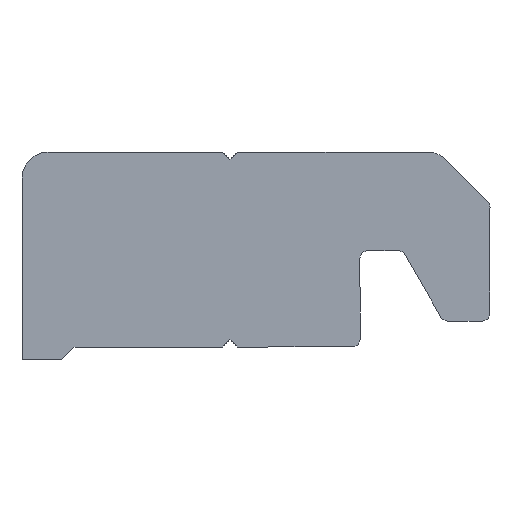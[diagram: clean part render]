
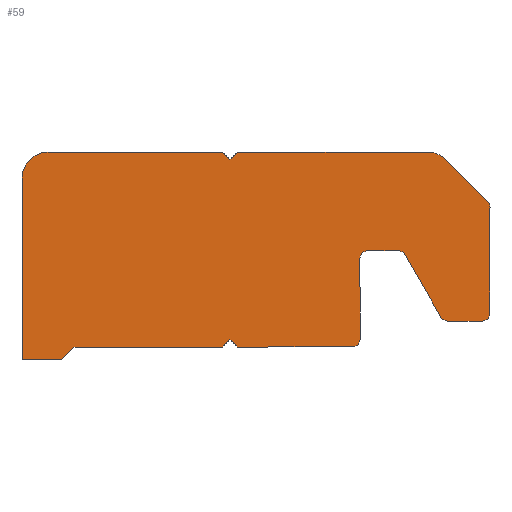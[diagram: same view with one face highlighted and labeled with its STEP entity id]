
A CAD part, front view. The second image highlights one B-rep face of the part: STEP entity #59.
In plain terms, the highlighted planar face has unit normal (0, -1, 0).
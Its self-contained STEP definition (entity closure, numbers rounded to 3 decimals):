
#59=ADVANCED_FACE('',(#143),#144,.F.);
#143=FACE_OUTER_BOUND('',#250,.T.);
#144=PLANE('',#251);
#250=EDGE_LOOP('',(#356,#357,#358,#359,#360,#361,#362,#363,#364,#365,#366,#367,#368,#369,#370,#371,#372,#373,#374,#375,#376,#377,#378,#379,#380,#381));
#251=AXIS2_PLACEMENT_3D('',#382,#383,#384);
#356=ORIENTED_EDGE('',*,*,#677,.T.);
#357=ORIENTED_EDGE('',*,*,#678,.T.);
#358=ORIENTED_EDGE('',*,*,#679,.T.);
#359=ORIENTED_EDGE('',*,*,#680,.T.);
#360=ORIENTED_EDGE('',*,*,#681,.T.);
#361=ORIENTED_EDGE('',*,*,#682,.T.);
#362=ORIENTED_EDGE('',*,*,#683,.T.);
#363=ORIENTED_EDGE('',*,*,#684,.T.);
#364=ORIENTED_EDGE('',*,*,#672,.T.);
#365=ORIENTED_EDGE('',*,*,#685,.T.);
#366=ORIENTED_EDGE('',*,*,#686,.T.);
#367=ORIENTED_EDGE('',*,*,#687,.T.);
#368=ORIENTED_EDGE('',*,*,#688,.T.);
#369=ORIENTED_EDGE('',*,*,#689,.T.);
#370=ORIENTED_EDGE('',*,*,#690,.T.);
#371=ORIENTED_EDGE('',*,*,#691,.T.);
#372=ORIENTED_EDGE('',*,*,#692,.T.);
#373=ORIENTED_EDGE('',*,*,#693,.T.);
#374=ORIENTED_EDGE('',*,*,#694,.T.);
#375=ORIENTED_EDGE('',*,*,#695,.T.);
#376=ORIENTED_EDGE('',*,*,#696,.T.);
#377=ORIENTED_EDGE('',*,*,#697,.T.);
#378=ORIENTED_EDGE('',*,*,#698,.T.);
#379=ORIENTED_EDGE('',*,*,#699,.T.);
#380=ORIENTED_EDGE('',*,*,#700,.T.);
#381=ORIENTED_EDGE('',*,*,#701,.T.);
#382=CARTESIAN_POINT('',(-7.,-9.5,7.0));
#383=DIRECTION('',(-0.0,1.0,0.0));
#384=DIRECTION('',(1.0,0.0,0.0));
#672=EDGE_CURVE('',#801,#802,#803,.T.);
#677=EDGE_CURVE('',#810,#811,#812,.T.);
#678=EDGE_CURVE('',#811,#813,#814,.T.);
#679=EDGE_CURVE('',#813,#815,#816,.T.);
#680=EDGE_CURVE('',#815,#817,#818,.T.);
#681=EDGE_CURVE('',#817,#819,#820,.T.);
#682=EDGE_CURVE('',#819,#821,#822,.T.);
#683=EDGE_CURVE('',#821,#823,#824,.T.);
#684=EDGE_CURVE('',#823,#801,#825,.T.);
#685=EDGE_CURVE('',#802,#826,#827,.T.);
#686=EDGE_CURVE('',#826,#828,#829,.T.);
#687=EDGE_CURVE('',#828,#830,#831,.T.);
#688=EDGE_CURVE('',#830,#832,#833,.T.);
#689=EDGE_CURVE('',#832,#834,#835,.T.);
#690=EDGE_CURVE('',#834,#836,#837,.T.);
#691=EDGE_CURVE('',#836,#838,#839,.T.);
#692=EDGE_CURVE('',#838,#840,#841,.T.);
#693=EDGE_CURVE('',#840,#842,#843,.T.);
#694=EDGE_CURVE('',#842,#844,#845,.T.);
#695=EDGE_CURVE('',#844,#846,#847,.T.);
#696=EDGE_CURVE('',#846,#848,#849,.T.);
#697=EDGE_CURVE('',#848,#850,#851,.T.);
#698=EDGE_CURVE('',#850,#852,#853,.T.);
#699=EDGE_CURVE('',#852,#854,#855,.T.);
#700=EDGE_CURVE('',#854,#856,#857,.T.);
#701=EDGE_CURVE('',#856,#810,#858,.T.);
#801=VERTEX_POINT('',#994);
#802=VERTEX_POINT('',#995);
#803=LINE('',#996,#997);
#810=VERTEX_POINT('',#1007);
#811=VERTEX_POINT('',#1008);
#812=CIRCLE('',#1009,1.0);
#813=VERTEX_POINT('',#1010);
#814=LINE('',#1011,#1012);
#815=VERTEX_POINT('',#1013);
#816=LINE('',#1014,#1015);
#817=VERTEX_POINT('',#1016);
#818=LINE('',#1017,#1018);
#819=VERTEX_POINT('',#1019);
#820=LINE('',#1020,#1021);
#821=VERTEX_POINT('',#1022);
#822=LINE('',#1023,#1024);
#823=VERTEX_POINT('',#1025);
#824=LINE('',#1026,#1027);
#825=LINE('',#1028,#1029);
#826=VERTEX_POINT('',#1030);
#827=CIRCLE('',#1031,0.3);
#828=VERTEX_POINT('',#1032);
#829=LINE('',#1033,#1034);
#830=VERTEX_POINT('',#1035);
#831=CIRCLE('',#1036,0.3);
#832=VERTEX_POINT('',#1037);
#833=LINE('',#1038,#1039);
#834=VERTEX_POINT('',#1040);
#835=CIRCLE('',#1041,0.3);
#836=VERTEX_POINT('',#1042);
#837=LINE('',#1043,#1044);
#838=VERTEX_POINT('',#1045);
#839=CIRCLE('',#1046,0.3);
#840=VERTEX_POINT('',#1047);
#841=LINE('',#1048,#1049);
#842=VERTEX_POINT('',#1050);
#843=CIRCLE('',#1051,0.3);
#844=VERTEX_POINT('',#1052);
#845=LINE('',#1053,#1054);
#846=VERTEX_POINT('',#1055);
#847=CIRCLE('',#1056,0.3);
#848=VERTEX_POINT('',#1057);
#849=LINE('',#1058,#1059);
#850=VERTEX_POINT('',#1060);
#851=CIRCLE('',#1061,1.);
#852=VERTEX_POINT('',#1062);
#853=LINE('',#1063,#1064);
#854=VERTEX_POINT('',#1065);
#855=LINE('',#1066,#1067);
#856=VERTEX_POINT('',#1068);
#857=LINE('',#1069,#1070);
#858=LINE('',#1071,#1072);
#994=CARTESIAN_POINT('',(4.7,-9.5,0.5));
#995=CARTESIAN_POINT('',(4.702,-9.5,0.5));
#996=CARTESIAN_POINT('',(4.7,-9.5,0.5));
#997=VECTOR('',#1254,1.0);
#1007=CARTESIAN_POINT('',(-7.,-9.5,8.0));
#1008=CARTESIAN_POINT('',(-8.,-9.5,7.0));
#1009=AXIS2_PLACEMENT_3D('',#1258,#1259,#1260);
#1010=CARTESIAN_POINT('',(-8.,-9.5,0.0));
#1011=CARTESIAN_POINT('',(-8.,-9.5,7.0));
#1012=VECTOR('',#1261,1.0);
#1013=CARTESIAN_POINT('',(-6.5,-9.5,0.0));
#1014=CARTESIAN_POINT('',(-8.,-9.5,0.0));
#1015=VECTOR('',#1262,1.0);
#1016=CARTESIAN_POINT('',(-6.,-9.5,0.5));
#1017=CARTESIAN_POINT('',(-6.5,-9.5,0.0));
#1018=VECTOR('',#1263,1.0);
#1019=CARTESIAN_POINT('',(-0.3,-9.5,0.5));
#1020=CARTESIAN_POINT('',(-6.,-9.5,0.5));
#1021=VECTOR('',#1264,1.0);
#1022=CARTESIAN_POINT('',(0.,-9.5,0.8));
#1023=CARTESIAN_POINT('',(-0.3,-9.5,0.5));
#1024=VECTOR('',#1265,1.0);
#1025=CARTESIAN_POINT('',(0.3,-9.5,0.5));
#1026=CARTESIAN_POINT('',(0.,-9.5,0.8));
#1027=VECTOR('',#1266,1.0);
#1028=CARTESIAN_POINT('',(0.3,-9.5,0.5));
#1029=VECTOR('',#1267,1.0);
#1030=CARTESIAN_POINT('',(5.,-9.5,0.8));
#1031=AXIS2_PLACEMENT_3D('',#1268,#1269,#1270);
#1032=CARTESIAN_POINT('',(5.,-9.5,3.9));
#1033=CARTESIAN_POINT('',(5.,-9.5,0.8));
#1034=VECTOR('',#1271,1.0);
#1035=CARTESIAN_POINT('',(5.3,-9.5,4.2));
#1036=AXIS2_PLACEMENT_3D('',#1272,#1273,#1274);
#1037=CARTESIAN_POINT('',(6.468,-9.5,4.2));
#1038=CARTESIAN_POINT('',(5.3,-9.5,4.2));
#1039=VECTOR('',#1275,1.0);
#1040=CARTESIAN_POINT('',(6.728,-9.5,4.05));
#1041=AXIS2_PLACEMENT_3D('',#1276,#1277,#1278);
#1042=CARTESIAN_POINT('',(8.113,-9.5,1.65));
#1043=CARTESIAN_POINT('',(6.728,-9.5,4.05));
#1044=VECTOR('',#1279,1.0);
#1045=CARTESIAN_POINT('',(8.373,-9.5,1.5));
#1046=AXIS2_PLACEMENT_3D('',#1280,#1281,#1282);
#1047=CARTESIAN_POINT('',(9.7,-9.5,1.5));
#1048=CARTESIAN_POINT('',(8.373,-9.5,1.5));
#1049=VECTOR('',#1283,1.0);
#1050=CARTESIAN_POINT('',(10.,-9.5,1.8));
#1051=AXIS2_PLACEMENT_3D('',#1284,#1285,#1286);
#1052=CARTESIAN_POINT('',(10.,-9.5,5.876));
#1053=CARTESIAN_POINT('',(10.,-9.5,1.8));
#1054=VECTOR('',#1287,1.0);
#1055=CARTESIAN_POINT('',(9.912,-9.5,6.088));
#1056=AXIS2_PLACEMENT_3D('',#1288,#1289,#1290);
#1057=CARTESIAN_POINT('',(8.293,-9.5,7.707));
#1058=CARTESIAN_POINT('',(9.912,-9.5,6.088));
#1059=VECTOR('',#1291,1.0);
#1060=CARTESIAN_POINT('',(7.586,-9.5,8.0));
#1061=AXIS2_PLACEMENT_3D('',#1292,#1293,#1294);
#1062=CARTESIAN_POINT('',(0.3,-9.5,8.0));
#1063=CARTESIAN_POINT('',(7.586,-9.5,8.0));
#1064=VECTOR('',#1295,1.0);
#1065=CARTESIAN_POINT('',(0.,-9.5,7.7));
#1066=CARTESIAN_POINT('',(0.3,-9.5,8.0));
#1067=VECTOR('',#1296,1.0);
#1068=CARTESIAN_POINT('',(-0.3,-9.5,8.0));
#1069=CARTESIAN_POINT('',(0.,-9.5,7.7));
#1070=VECTOR('',#1297,1.0);
#1071=CARTESIAN_POINT('',(-0.3,-9.5,8.0));
#1072=VECTOR('',#1298,1.0);
#1254=DIRECTION('',(1.,0.0,0.004));
#1258=CARTESIAN_POINT('',(-7.,-9.5,7.0));
#1259=DIRECTION('',(0.0,-1.0,0.0));
#1260=DIRECTION('',(1.0,0.0,0.0));
#1261=DIRECTION('',(0.0,0.0,-1.0));
#1262=DIRECTION('',(1.0,0.0,0.0));
#1263=DIRECTION('',(0.707,0.0,0.707));
#1264=DIRECTION('',(1.0,0.0,0.0));
#1265=DIRECTION('',(0.707,0.0,0.707));
#1266=DIRECTION('',(0.707,0.0,-0.707));
#1267=DIRECTION('',(1.0,0.0,0.));
#1268=CARTESIAN_POINT('',(4.7,-9.5,0.8));
#1269=DIRECTION('',(0.0,-1.0,0.0));
#1270=DIRECTION('',(1.0,0.0,0.0));
#1271=DIRECTION('',(0.,0.0,1.0));
#1272=CARTESIAN_POINT('',(5.3,-9.5,3.9));
#1273=DIRECTION('',(0.0,1.0,0.0));
#1274=DIRECTION('',(-1.0,0.0,0.0));
#1275=DIRECTION('',(1.0,0.0,0.));
#1276=CARTESIAN_POINT('',(6.468,-9.5,3.9));
#1277=DIRECTION('',(0.0,1.0,0.0));
#1278=DIRECTION('',(-1.0,0.0,0.0));
#1279=DIRECTION('',(0.5,0.0,-0.866));
#1280=CARTESIAN_POINT('',(8.373,-9.5,1.8));
#1281=DIRECTION('',(0.0,-1.0,0.0));
#1282=DIRECTION('',(1.0,0.0,0.0));
#1283=DIRECTION('',(1.0,0.0,0.));
#1284=CARTESIAN_POINT('',(9.7,-9.5,1.8));
#1285=DIRECTION('',(0.0,-1.0,0.0));
#1286=DIRECTION('',(1.0,0.0,0.0));
#1287=DIRECTION('',(0.,0.0,1.0));
#1288=CARTESIAN_POINT('',(9.7,-9.5,5.876));
#1289=DIRECTION('',(0.0,-1.0,0.0));
#1290=DIRECTION('',(1.0,0.0,0.0));
#1291=DIRECTION('',(-0.707,0.0,0.707));
#1292=CARTESIAN_POINT('',(7.586,-9.5,7.0));
#1293=DIRECTION('',(0.0,-1.0,0.0));
#1294=DIRECTION('',(1.0,0.0,0.0));
#1295=DIRECTION('',(-1.0,0.0,0.0));
#1296=DIRECTION('',(-0.707,0.0,-0.707));
#1297=DIRECTION('',(-0.707,0.0,0.707));
#1298=DIRECTION('',(-1.0,0.0,0.0));
